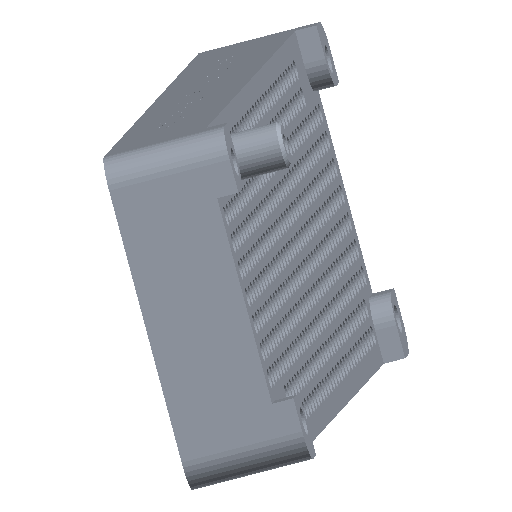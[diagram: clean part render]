
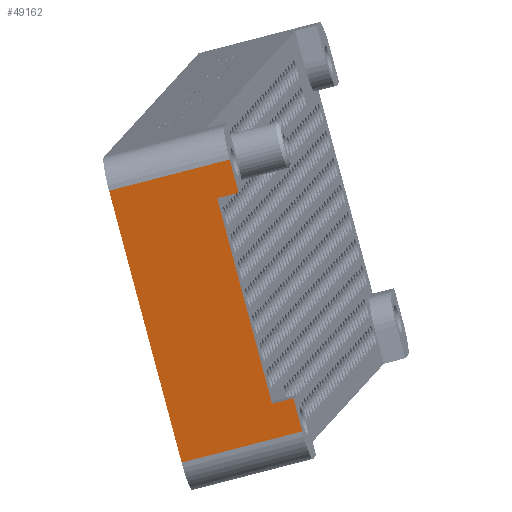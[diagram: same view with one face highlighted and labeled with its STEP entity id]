
A CAD part, top view. The second image highlights one B-rep face of the part: STEP entity #49162.
In plain terms, the highlighted planar face has unit normal (-0.091, -0.101, 0.991).
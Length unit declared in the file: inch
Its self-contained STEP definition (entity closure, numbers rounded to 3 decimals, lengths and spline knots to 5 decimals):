
#19330=CARTESIAN_POINT('',(0.38816,1.37407,1.94334));
#19331=VERTEX_POINT('',#19330);
#19339=CARTESIAN_POINT('',(0.10171,2.44715,2.02633));
#19340=VERTEX_POINT('',#19339);
#19341=CARTESIAN_POINT('',(0.10171,2.44715,2.02633));
#19342=DIRECTION('',(0.257,-0.963,-0.075));
#19343=VECTOR('',#19342,1.11375);
#19344=LINE('',#19341,#19343);
#19345=EDGE_CURVE('',#19340,#19331,#19344,.T.);
#49087=CARTESIAN_POINT('',(0.8644,1.49686,1.99941));
#49088=VERTEX_POINT('',#49087);
#49096=CARTESIAN_POINT('',(0.8644,1.49686,1.99941));
#49097=DIRECTION('',(-0.962,-0.248,-0.113));
#49098=VECTOR('',#49097,0.495);
#49099=LINE('',#49096,#49098);
#49100=EDGE_CURVE('',#49088,#19331,#49099,.T.);
#49107=CARTESIAN_POINT('',(0.46161,2.66867,2.08181));
#49108=DIRECTION('',(-0.091,-0.101,0.991));
#49109=DIRECTION('',(0.962,0.248,0.113));
#49110=AXIS2_PLACEMENT_3D('',#49107,#49108,#49109);
#49111=PLANE('',#49110);
#49112=ORIENTED_EDGE('',*,*,#49100,.F.);
#49113=CARTESIAN_POINT('',(0.82942,1.6279,2.00955));
#49114=VERTEX_POINT('',#49113);
#49115=CARTESIAN_POINT('',(0.8644,1.49686,1.99941));
#49116=DIRECTION('',(-0.257,0.963,0.075));
#49117=VECTOR('',#49116,0.136);
#49118=LINE('',#49115,#49117);
#49119=EDGE_CURVE('',#49088,#49114,#49118,.T.);
#49120=ORIENTED_EDGE('',*,*,#49119,.T.);
#49121=CARTESIAN_POINT('',(0.74524,1.60619,1.99964));
#49122=VERTEX_POINT('',#49121);
#49123=CARTESIAN_POINT('',(0.74524,1.60619,1.99964));
#49124=DIRECTION('',(0.962,0.248,0.113));
#49125=VECTOR('',#49124,0.0875);
#49126=LINE('',#49123,#49125);
#49127=EDGE_CURVE('',#49122,#49114,#49126,.T.);
#49128=ORIENTED_EDGE('',*,*,#49127,.F.);
#49129=CARTESIAN_POINT('',(0.52874,2.4172,2.06236));
#49130=VERTEX_POINT('',#49129);
#49131=CARTESIAN_POINT('',(0.52874,2.4172,2.06236));
#49132=DIRECTION('',(0.257,-0.963,-0.075));
#49133=VECTOR('',#49132,0.84175);
#49134=LINE('',#49131,#49133);
#49135=EDGE_CURVE('',#49130,#49122,#49134,.T.);
#49136=ORIENTED_EDGE('',*,*,#49135,.F.);
#49137=CARTESIAN_POINT('',(0.61293,2.43891,2.07227));
#49138=VERTEX_POINT('',#49137);
#49139=CARTESIAN_POINT('',(0.52874,2.4172,2.06236));
#49140=DIRECTION('',(0.962,0.248,0.113));
#49141=VECTOR('',#49140,0.0875);
#49142=LINE('',#49139,#49141);
#49143=EDGE_CURVE('',#49130,#49138,#49142,.T.);
#49144=ORIENTED_EDGE('',*,*,#49143,.T.);
#49145=CARTESIAN_POINT('',(0.57795,2.56994,2.0824));
#49146=VERTEX_POINT('',#49145);
#49147=CARTESIAN_POINT('',(0.61293,2.43891,2.07227));
#49148=DIRECTION('',(-0.257,0.963,0.075));
#49149=VECTOR('',#49148,0.136);
#49150=LINE('',#49147,#49149);
#49151=EDGE_CURVE('',#49138,#49146,#49150,.T.);
#49152=ORIENTED_EDGE('',*,*,#49151,.T.);
#49153=CARTESIAN_POINT('',(0.10171,2.44715,2.02633));
#49154=DIRECTION('',(0.962,0.248,0.113));
#49155=VECTOR('',#49154,0.495);
#49156=LINE('',#49153,#49155);
#49157=EDGE_CURVE('',#19340,#49146,#49156,.T.);
#49158=ORIENTED_EDGE('',*,*,#49157,.F.);
#49159=ORIENTED_EDGE('',*,*,#19345,.T.);
#49160=EDGE_LOOP('',(#49112,#49120,#49128,#49136,#49144,#49152,#49158,#49159));
#49161=FACE_OUTER_BOUND('',#49160,.T.);
#49162=ADVANCED_FACE('',(#49161),#49111,.T.);
